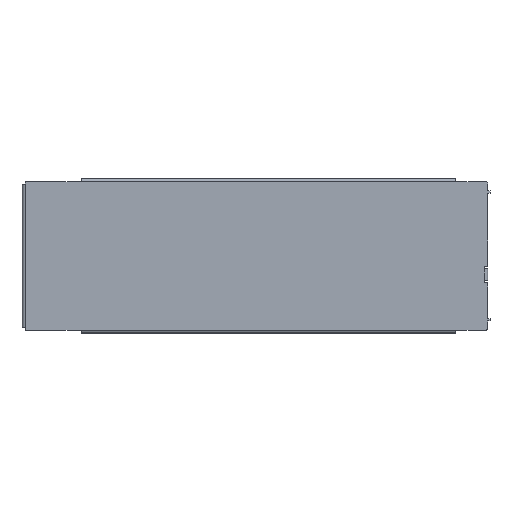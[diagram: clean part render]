
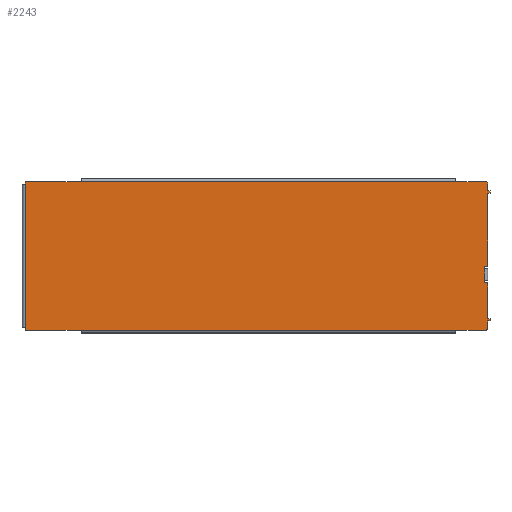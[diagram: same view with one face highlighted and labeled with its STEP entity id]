
A CAD part, top view. The second image highlights one B-rep face of the part: STEP entity #2243.
In plain terms, the highlighted planar face has unit normal (0, 0, 1).
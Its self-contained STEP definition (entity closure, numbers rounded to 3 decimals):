
#305=PLANE('',#2455);
#412=FACE_OUTER_BOUND('',#556,.T.);
#556=EDGE_LOOP('',(#1945,#1946,#1947,#1948,#1949,#1950,#1951,#1952,#1953,
#1954,#1955,#1956,#1957,#1958,#1959,#1960,#1961,#1962,#1963,#1964,#1965,
#1966,#1967,#1968,#1969,#1970,#1971,#1972));
#640=LINE('',#3267,#828);
#647=LINE('',#3287,#835);
#674=LINE('',#3356,#862);
#688=LINE('',#3389,#876);
#737=LINE('',#3571,#925);
#742=LINE('',#3586,#930);
#745=LINE('',#3594,#933);
#750=LINE('',#3609,#938);
#753=LINE('',#3616,#941);
#754=LINE('',#3619,#942);
#755=LINE('',#3622,#943);
#756=LINE('',#3626,#944);
#757=LINE('',#3628,#945);
#758=LINE('',#3630,#946);
#759=LINE('',#3632,#947);
#760=LINE('',#3634,#948);
#761=LINE('',#3635,#949);
#762=LINE('',#3637,#950);
#763=LINE('',#3639,#951);
#764=LINE('',#3641,#952);
#765=LINE('',#3643,#953);
#766=LINE('',#3645,#954);
#767=LINE('',#3647,#955);
#768=LINE('',#3649,#956);
#828=VECTOR('',#2608,10.);
#835=VECTOR('',#2635,10.);
#862=VECTOR('',#2682,10.);
#876=VECTOR('',#2720,10.);
#925=VECTOR('',#2921,10.);
#930=VECTOR('',#2944,10.);
#933=VECTOR('',#2951,10.);
#938=VECTOR('',#2974,10.);
#941=VECTOR('',#2983,10.);
#942=VECTOR('',#2986,10.);
#943=VECTOR('',#2989,10.);
#944=VECTOR('',#2992,10.);
#945=VECTOR('',#2993,10.);
#946=VECTOR('',#2994,10.);
#947=VECTOR('',#2995,10.);
#948=VECTOR('',#2996,10.);
#949=VECTOR('',#2997,10.);
#950=VECTOR('',#2998,10.);
#951=VECTOR('',#2999,10.);
#952=VECTOR('',#3000,10.);
#953=VECTOR('',#3001,10.);
#954=VECTOR('',#3002,10.);
#955=VECTOR('',#3003,10.);
#956=VECTOR('',#3004,10.);
#1047=CIRCLE('',#2453,1.);
#1048=CIRCLE('',#2456,1.);
#1049=CIRCLE('',#2457,1.);
#1050=CIRCLE('',#2458,1.);
#1116=VERTEX_POINT('',#3264);
#1117=VERTEX_POINT('',#3266);
#1120=VERTEX_POINT('',#3286);
#1151=VERTEX_POINT('',#3353);
#1152=VERTEX_POINT('',#3355);
#1159=VERTEX_POINT('',#3388);
#1215=VERTEX_POINT('',#3568);
#1216=VERTEX_POINT('',#3570);
#1217=VERTEX_POINT('',#3585);
#1219=VERTEX_POINT('',#3591);
#1220=VERTEX_POINT('',#3593);
#1221=VERTEX_POINT('',#3608);
#1222=VERTEX_POINT('',#3612);
#1223=VERTEX_POINT('',#3618);
#1224=VERTEX_POINT('',#3621);
#1225=VERTEX_POINT('',#3623);
#1226=VERTEX_POINT('',#3625);
#1227=VERTEX_POINT('',#3627);
#1228=VERTEX_POINT('',#3629);
#1229=VERTEX_POINT('',#3631);
#1230=VERTEX_POINT('',#3633);
#1231=VERTEX_POINT('',#3636);
#1232=VERTEX_POINT('',#3638);
#1233=VERTEX_POINT('',#3640);
#1234=VERTEX_POINT('',#3642);
#1235=VERTEX_POINT('',#3644);
#1236=VERTEX_POINT('',#3646);
#1237=VERTEX_POINT('',#3648);
#1302=EDGE_CURVE('',#1117,#1116,#640,.T.);
#1312=EDGE_CURVE('',#1120,#1117,#647,.T.);
#1346=EDGE_CURVE('',#1152,#1151,#674,.T.);
#1363=EDGE_CURVE('',#1159,#1152,#688,.T.);
#1453=EDGE_CURVE('',#1216,#1215,#737,.T.);
#1461=EDGE_CURVE('',#1217,#1216,#742,.T.);
#1465=EDGE_CURVE('',#1220,#1219,#745,.T.);
#1473=EDGE_CURVE('',#1221,#1220,#750,.T.);
#1475=EDGE_CURVE('',#1120,#1222,#1047,.T.);
#1477=EDGE_CURVE('',#1215,#1222,#753,.T.);
#1478=EDGE_CURVE('',#1116,#1223,#754,.T.);
#1479=EDGE_CURVE('',#1221,#1223,#1048,.T.);
#1480=EDGE_CURVE('',#1219,#1224,#755,.T.);
#1481=EDGE_CURVE('',#1225,#1224,#1049,.T.);
#1482=EDGE_CURVE('',#1225,#1226,#756,.T.);
#1483=EDGE_CURVE('',#1226,#1227,#757,.T.);
#1484=EDGE_CURVE('',#1227,#1228,#758,.T.);
#1485=EDGE_CURVE('',#1228,#1229,#759,.T.);
#1486=EDGE_CURVE('',#1229,#1230,#760,.T.);
#1487=EDGE_CURVE('',#1230,#1159,#761,.T.);
#1488=EDGE_CURVE('',#1151,#1231,#762,.T.);
#1489=EDGE_CURVE('',#1231,#1232,#763,.T.);
#1490=EDGE_CURVE('',#1232,#1233,#764,.T.);
#1491=EDGE_CURVE('',#1233,#1234,#765,.T.);
#1492=EDGE_CURVE('',#1234,#1235,#766,.T.);
#1493=EDGE_CURVE('',#1235,#1236,#767,.T.);
#1494=EDGE_CURVE('',#1236,#1237,#768,.T.);
#1495=EDGE_CURVE('',#1217,#1237,#1050,.T.);
#1945=ORIENTED_EDGE('',*,*,#1312,.T.);
#1946=ORIENTED_EDGE('',*,*,#1302,.T.);
#1947=ORIENTED_EDGE('',*,*,#1478,.T.);
#1948=ORIENTED_EDGE('',*,*,#1479,.F.);
#1949=ORIENTED_EDGE('',*,*,#1473,.T.);
#1950=ORIENTED_EDGE('',*,*,#1465,.T.);
#1951=ORIENTED_EDGE('',*,*,#1480,.T.);
#1952=ORIENTED_EDGE('',*,*,#1481,.F.);
#1953=ORIENTED_EDGE('',*,*,#1482,.T.);
#1954=ORIENTED_EDGE('',*,*,#1483,.T.);
#1955=ORIENTED_EDGE('',*,*,#1484,.T.);
#1956=ORIENTED_EDGE('',*,*,#1485,.T.);
#1957=ORIENTED_EDGE('',*,*,#1486,.T.);
#1958=ORIENTED_EDGE('',*,*,#1487,.T.);
#1959=ORIENTED_EDGE('',*,*,#1363,.T.);
#1960=ORIENTED_EDGE('',*,*,#1346,.T.);
#1961=ORIENTED_EDGE('',*,*,#1488,.T.);
#1962=ORIENTED_EDGE('',*,*,#1489,.T.);
#1963=ORIENTED_EDGE('',*,*,#1490,.T.);
#1964=ORIENTED_EDGE('',*,*,#1491,.T.);
#1965=ORIENTED_EDGE('',*,*,#1492,.T.);
#1966=ORIENTED_EDGE('',*,*,#1493,.T.);
#1967=ORIENTED_EDGE('',*,*,#1494,.T.);
#1968=ORIENTED_EDGE('',*,*,#1495,.F.);
#1969=ORIENTED_EDGE('',*,*,#1461,.T.);
#1970=ORIENTED_EDGE('',*,*,#1453,.T.);
#1971=ORIENTED_EDGE('',*,*,#1477,.T.);
#1972=ORIENTED_EDGE('',*,*,#1475,.F.);
#2243=ADVANCED_FACE('',(#412),#305,.T.);
#2453=AXIS2_PLACEMENT_3D('',#3613,#2978,#2979);
#2455=AXIS2_PLACEMENT_3D('',#3617,#2984,#2985);
#2456=AXIS2_PLACEMENT_3D('',#3620,#2987,#2988);
#2457=AXIS2_PLACEMENT_3D('',#3624,#2990,#2991);
#2458=AXIS2_PLACEMENT_3D('',#3650,#3005,#3006);
#2608=DIRECTION('',(0.,-1.,0.));
#2635=DIRECTION('',(0.,-1.,0.));
#2682=DIRECTION('',(0.,1.,0.));
#2720=DIRECTION('',(0.,1.,0.));
#2921=DIRECTION('',(-1.,0.,0.));
#2944=DIRECTION('',(-1.,0.,0.));
#2951=DIRECTION('',(1.,0.,0.));
#2974=DIRECTION('',(1.,0.,0.));
#2978=DIRECTION('center_axis',(0.,0.,-1.));
#2979=DIRECTION('ref_axis',(-0.707,0.707,0.));
#2983=DIRECTION('',(-1.,0.,0.));
#2984=DIRECTION('center_axis',(0.,0.,1.));
#2985=DIRECTION('ref_axis',(1.,0.,0.));
#2986=DIRECTION('',(0.,-1.,0.));
#2987=DIRECTION('center_axis',(0.,0.,-1.));
#2988=DIRECTION('ref_axis',(-0.707,-0.707,0.));
#2989=DIRECTION('',(1.,0.,0.));
#2990=DIRECTION('center_axis',(0.,0.,-1.));
#2991=DIRECTION('ref_axis',(0.707,-0.707,0.));
#2992=DIRECTION('',(0.,1.,0.));
#2993=DIRECTION('',(1.,0.,0.));
#2994=DIRECTION('',(0.,1.,0.));
#2995=DIRECTION('',(-1.,0.,0.));
#2996=DIRECTION('',(0.,1.,0.));
#2997=DIRECTION('',(-1.,0.,0.));
#2998=DIRECTION('',(0.,1.,0.));
#2999=DIRECTION('',(1.,0.,0.));
#3000=DIRECTION('',(0.,1.,0.));
#3001=DIRECTION('',(1.,0.,0.));
#3002=DIRECTION('',(0.,1.,0.));
#3003=DIRECTION('',(-1.,0.,0.));
#3004=DIRECTION('',(0.,1.,0.));
#3005=DIRECTION('center_axis',(0.,0.,-1.));
#3006=DIRECTION('ref_axis',(0.707,0.707,0.));
#3264=CARTESIAN_POINT('',(-189.25,-58.7,0.));
#3266=CARTESIAN_POINT('',(-189.25,58.7,0.));
#3267=CARTESIAN_POINT('',(-189.25,60.7,0.));
#3286=CARTESIAN_POINT('',(-189.25,59.7,0.));
#3287=CARTESIAN_POINT('',(-189.25,60.7,0.));
#3353=CARTESIAN_POINT('',(186.75,-10.5,0.));
#3355=CARTESIAN_POINT('',(186.75,-20.1,0.));
#3356=CARTESIAN_POINT('',(186.75,-22.1,0.));
#3388=CARTESIAN_POINT('',(186.75,-22.1,0.));
#3389=CARTESIAN_POINT('',(186.75,-22.1,0.));
#3568=CARTESIAN_POINT('',(-143.25,60.7,0.));
#3570=CARTESIAN_POINT('',(163.25,60.7,0.));
#3571=CARTESIAN_POINT('',(189.25,60.7,0.));
#3585=CARTESIAN_POINT('',(188.25,60.7,0.));
#3586=CARTESIAN_POINT('',(189.25,60.7,0.));
#3591=CARTESIAN_POINT('',(163.25,-60.7,0.));
#3593=CARTESIAN_POINT('',(-143.25,-60.7,0.));
#3594=CARTESIAN_POINT('',(-189.25,-60.7,0.));
#3608=CARTESIAN_POINT('',(-188.25,-60.7,0.));
#3609=CARTESIAN_POINT('',(-189.25,-60.7,0.));
#3612=CARTESIAN_POINT('',(-188.25,60.7,0.));
#3613=CARTESIAN_POINT('Origin',(-188.25,59.7,0.));
#3616=CARTESIAN_POINT('',(189.25,60.7,0.));
#3617=CARTESIAN_POINT('Origin',(2.182,-0.148,0.));
#3618=CARTESIAN_POINT('',(-189.25,-59.7,0.));
#3619=CARTESIAN_POINT('',(-189.25,60.7,0.));
#3620=CARTESIAN_POINT('Origin',(-188.25,-59.7,0.));
#3621=CARTESIAN_POINT('',(188.25,-60.7,0.));
#3622=CARTESIAN_POINT('',(-189.25,-60.7,0.));
#3623=CARTESIAN_POINT('',(189.25,-59.7,0.));
#3624=CARTESIAN_POINT('Origin',(188.25,-59.7,0.));
#3625=CARTESIAN_POINT('',(189.25,-53.2,0.));
#3626=CARTESIAN_POINT('',(189.25,-60.7,0.));
#3627=CARTESIAN_POINT('',(191.25,-53.2,0.));
#3628=CARTESIAN_POINT('',(189.25,-53.2,0.));
#3629=CARTESIAN_POINT('',(191.25,-51.2,0.));
#3630=CARTESIAN_POINT('',(191.25,-53.2,0.));
#3631=CARTESIAN_POINT('',(189.25,-51.2,0.));
#3632=CARTESIAN_POINT('',(191.25,-51.2,0.));
#3633=CARTESIAN_POINT('',(189.25,-22.1,0.));
#3634=CARTESIAN_POINT('',(189.25,-51.2,0.));
#3635=CARTESIAN_POINT('',(189.25,-22.1,0.));
#3636=CARTESIAN_POINT('',(186.75,-8.5,0.));
#3637=CARTESIAN_POINT('',(186.75,-22.1,0.));
#3638=CARTESIAN_POINT('',(189.25,-8.5,0.));
#3639=CARTESIAN_POINT('',(186.75,-8.5,0.));
#3640=CARTESIAN_POINT('',(189.25,51.2,0.));
#3641=CARTESIAN_POINT('',(189.25,-8.5,0.));
#3642=CARTESIAN_POINT('',(191.25,51.2,0.));
#3643=CARTESIAN_POINT('',(189.25,51.2,0.));
#3644=CARTESIAN_POINT('',(191.25,53.2,0.));
#3645=CARTESIAN_POINT('',(191.25,51.2,0.));
#3646=CARTESIAN_POINT('',(189.25,53.2,0.));
#3647=CARTESIAN_POINT('',(191.25,53.2,0.));
#3648=CARTESIAN_POINT('',(189.25,59.7,0.));
#3649=CARTESIAN_POINT('',(189.25,53.2,0.));
#3650=CARTESIAN_POINT('Origin',(188.25,59.7,0.));
